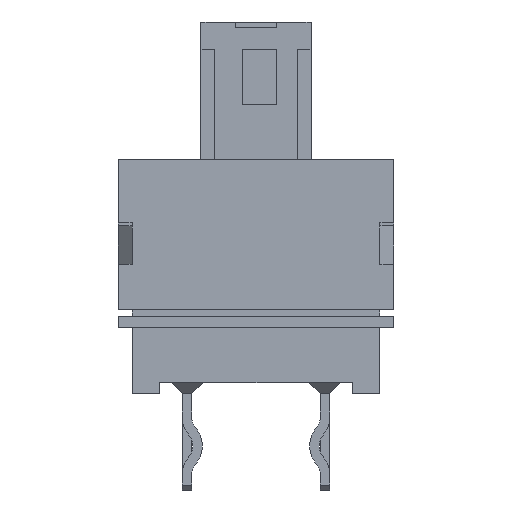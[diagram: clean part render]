
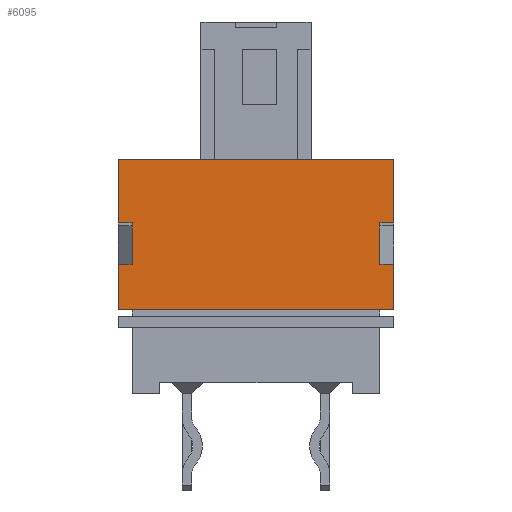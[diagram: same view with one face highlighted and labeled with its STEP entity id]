
A CAD part, front view. The second image highlights one B-rep face of the part: STEP entity #6095.
In plain terms, the highlighted planar face has unit normal (0, -1, 0).
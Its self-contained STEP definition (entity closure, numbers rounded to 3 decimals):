
#59 = DIRECTION ( 'NONE',  ( -1., 0., 0. ) ) ;
#64 = CARTESIAN_POINT ( 'NONE',  ( 5., -5., 3.05 ) ) ;
#92 = EDGE_LOOP ( 'NONE', ( #3505, #6254, #2111, #2706, #4831, #4239, #6651, #374, #3412, #3905, #2883, #5753 ) ) ;
#115 = VERTEX_POINT ( 'NONE', #3773 ) ;
#156 = CARTESIAN_POINT ( 'NONE',  ( -5., -5., 6.2 ) ) ;
#188 = CARTESIAN_POINT ( 'NONE',  ( 4.5, -5., 4.7 ) ) ;
#322 = DIRECTION ( 'NONE',  ( 0., 0., 1. ) ) ;
#349 = DIRECTION ( 'NONE',  ( 1., 0., 0. ) ) ;
#362 = CARTESIAN_POINT ( 'NONE',  ( 5., -5., 3.05 ) ) ;
#374 = ORIENTED_EDGE ( 'NONE', *, *, #3502, .F. ) ;
#379 = CARTESIAN_POINT ( 'NONE',  ( -4.5, -5., 4.7 ) ) ;
#388 = VERTEX_POINT ( 'NONE', #6892 ) ;
#396 = DIRECTION ( 'NONE',  ( 0., 1., 0. ) ) ;
#474 = VERTEX_POINT ( 'NONE', #2538 ) ;
#740 = CARTESIAN_POINT ( 'NONE',  ( -4.5, -5., 4.7 ) ) ;
#843 = EDGE_CURVE ( 'NONE', #1825, #1809, #5818, .T. ) ;
#949 = FACE_OUTER_BOUND ( 'NONE', #92, .T. ) ;
#986 = EDGE_CURVE ( 'NONE', #1825, #115, #5449, .T. ) ;
#1052 = LINE ( 'NONE', #3295, #5275 ) ;
#1358 = DIRECTION ( 'NONE',  ( 0., 0., 1. ) ) ;
#1429 = EDGE_CURVE ( 'NONE', #2431, #1809, #3150, .T. ) ;
#1483 = CARTESIAN_POINT ( 'NONE',  ( 5., -5., 8.5 ) ) ;
#1569 = VERTEX_POINT ( 'NONE', #6347 ) ;
#1775 = CARTESIAN_POINT ( 'NONE',  ( 5., -5., 3.05 ) ) ;
#1787 = VECTOR ( 'NONE', #2587, 1000. ) ;
#1809 = VERTEX_POINT ( 'NONE', #6954 ) ;
#1825 = VERTEX_POINT ( 'NONE', #4131 ) ;
#1917 = EDGE_CURVE ( 'NONE', #7272, #6182, #1052, .T. ) ;
#1926 = CARTESIAN_POINT ( 'NONE',  ( 5., -5., 4.7 ) ) ;
#2026 = VECTOR ( 'NONE', #322, 1000. ) ;
#2111 = ORIENTED_EDGE ( 'NONE', *, *, #5064, .F. ) ;
#2193 = VERTEX_POINT ( 'NONE', #4750 ) ;
#2298 = DIRECTION ( 'NONE',  ( -1., 0., 0. ) ) ;
#2336 = CARTESIAN_POINT ( 'NONE',  ( 5., -5., 8.5 ) ) ;
#2382 = VERTEX_POINT ( 'NONE', #4571 ) ;
#2424 = DIRECTION ( 'NONE',  ( 0., 0., -1. ) ) ;
#2431 = VERTEX_POINT ( 'NONE', #156 ) ;
#2538 = CARTESIAN_POINT ( 'NONE',  ( -5., -5., 8.5 ) ) ;
#2587 = DIRECTION ( 'NONE',  ( 0., 0., 1. ) ) ;
#2608 = DIRECTION ( 'NONE',  ( -1., 0., 0. ) ) ;
#2626 = DIRECTION ( 'NONE',  ( 1., 0., 0. ) ) ;
#2706 = ORIENTED_EDGE ( 'NONE', *, *, #4424, .F. ) ;
#2840 = LINE ( 'NONE', #5122, #2899 ) ;
#2883 = ORIENTED_EDGE ( 'NONE', *, *, #5514, .F. ) ;
#2899 = VECTOR ( 'NONE', #59, 1000. ) ;
#2993 = DIRECTION ( 'NONE',  ( 0., 0., 1. ) ) ;
#3108 = LINE ( 'NONE', #5385, #2026 ) ;
#3150 = LINE ( 'NONE', #5415, #6938 ) ;
#3191 = PLANE ( 'NONE',  #6878 ) ;
#3295 = CARTESIAN_POINT ( 'NONE',  ( 5., -5., 4.7 ) ) ;
#3412 = ORIENTED_EDGE ( 'NONE', *, *, #6452, .T. ) ;
#3453 = VECTOR ( 'NONE', #4036, 1000. ) ;
#3502 = EDGE_CURVE ( 'NONE', #388, #2193, #2840, .T. ) ;
#3505 = ORIENTED_EDGE ( 'NONE', *, *, #843, .F. ) ;
#3734 = DIRECTION ( 'NONE',  ( 1., 0., 0. ) ) ;
#3773 = CARTESIAN_POINT ( 'NONE',  ( -5., -5., 4.7 ) ) ;
#3818 = VECTOR ( 'NONE', #3734, 1000. ) ;
#3905 = ORIENTED_EDGE ( 'NONE', *, *, #4876, .F. ) ;
#4036 = DIRECTION ( 'NONE',  ( 0., 0., 1. ) ) ;
#4131 = CARTESIAN_POINT ( 'NONE',  ( -4.5, -5., 4.7 ) ) ;
#4139 = CARTESIAN_POINT ( 'NONE',  ( 4.5, -5., 4.7 ) ) ;
#4169 = LINE ( 'NONE', #6436, #7027 ) ;
#4239 = ORIENTED_EDGE ( 'NONE', *, *, #1917, .F. ) ;
#4424 = EDGE_CURVE ( 'NONE', #2382, #1569, #5125, .T. ) ;
#4571 = CARTESIAN_POINT ( 'NONE',  ( 5., -5., 3.05 ) ) ;
#4651 = VECTOR ( 'NONE', #2424, 1000. ) ;
#4750 = CARTESIAN_POINT ( 'NONE',  ( 4.5, -5., 6.2 ) ) ;
#4831 = ORIENTED_EDGE ( 'NONE', *, *, #6050, .T. ) ;
#4876 = EDGE_CURVE ( 'NONE', #474, #6139, #6553, .T. ) ;
#5007 = VECTOR ( 'NONE', #2298, 1000. ) ;
#5064 = EDGE_CURVE ( 'NONE', #1569, #115, #4169, .T. ) ;
#5122 = CARTESIAN_POINT ( 'NONE',  ( 5., -5., 6.2 ) ) ;
#5125 = LINE ( 'NONE', #64, #5007 ) ;
#5250 = LINE ( 'NONE', #188, #4651 ) ;
#5275 = VECTOR ( 'NONE', #5576, 1000. ) ;
#5385 = CARTESIAN_POINT ( 'NONE',  ( -5., -5., 3.05 ) ) ;
#5415 = CARTESIAN_POINT ( 'NONE',  ( -4.5, -5., 6.2 ) ) ;
#5432 = LINE ( 'NONE', #362, #1787 ) ;
#5449 = LINE ( 'NONE', #379, #5519 ) ;
#5465 = CARTESIAN_POINT ( 'NONE',  ( 5., -5., 3.05 ) ) ;
#5514 = EDGE_CURVE ( 'NONE', #2431, #474, #3108, .T. ) ;
#5519 = VECTOR ( 'NONE', #2608, 1000. ) ;
#5576 = DIRECTION ( 'NONE',  ( 1., 0., 0. ) ) ;
#5631 = VECTOR ( 'NONE', #2993, 1000. ) ;
#5753 = ORIENTED_EDGE ( 'NONE', *, *, #1429, .T. ) ;
#5818 = LINE ( 'NONE', #740, #5631 ) ;
#6050 = EDGE_CURVE ( 'NONE', #2382, #6182, #5432, .T. ) ;
#6095 = ADVANCED_FACE ( 'NONE', ( #949 ), #3191, .F. ) ;
#6139 = VERTEX_POINT ( 'NONE', #2336 ) ;
#6182 = VERTEX_POINT ( 'NONE', #1926 ) ;
#6254 = ORIENTED_EDGE ( 'NONE', *, *, #986, .T. ) ;
#6347 = CARTESIAN_POINT ( 'NONE',  ( -5., -5., 3.05 ) ) ;
#6436 = CARTESIAN_POINT ( 'NONE',  ( -5., -5., 3.05 ) ) ;
#6452 = EDGE_CURVE ( 'NONE', #388, #6139, #6860, .T. ) ;
#6553 = LINE ( 'NONE', #1483, #3818 ) ;
#6651 = ORIENTED_EDGE ( 'NONE', *, *, #6772, .F. ) ;
#6772 = EDGE_CURVE ( 'NONE', #2193, #7272, #5250, .T. ) ;
#6860 = LINE ( 'NONE', #1775, #3453 ) ;
#6878 = AXIS2_PLACEMENT_3D ( 'NONE', #5465, #396, #2626 ) ;
#6892 = CARTESIAN_POINT ( 'NONE',  ( 5., -5., 6.2 ) ) ;
#6938 = VECTOR ( 'NONE', #349, 1000. ) ;
#6954 = CARTESIAN_POINT ( 'NONE',  ( -4.5, -5., 6.2 ) ) ;
#7027 = VECTOR ( 'NONE', #1358, 1000. ) ;
#7272 = VERTEX_POINT ( 'NONE', #4139 ) ;
